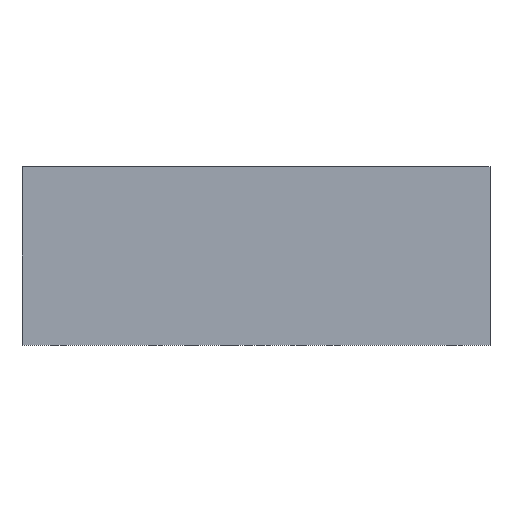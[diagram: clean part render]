
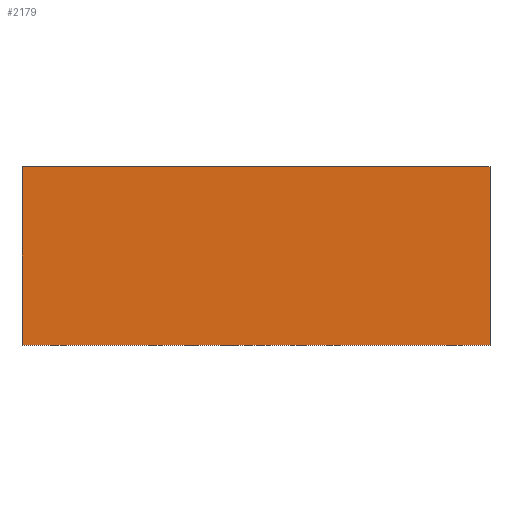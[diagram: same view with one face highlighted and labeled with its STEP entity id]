
A CAD part, front view. The second image highlights one B-rep face of the part: STEP entity #2179.
In plain terms, the highlighted planar face has unit normal (0, -1, 0).
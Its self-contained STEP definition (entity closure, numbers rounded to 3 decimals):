
#22 = VERTEX_POINT('',#23);
#23 = CARTESIAN_POINT('',(0.,0.,40.));
#32 = PLANE('',#33);
#33 = AXIS2_PLACEMENT_3D('',#34,#35,#36);
#34 = CARTESIAN_POINT('',(0.,0.,0.));
#35 = DIRECTION('',(1.,0.,0.));
#36 = DIRECTION('',(0.,0.,1.));
#44 = PLANE('',#45);
#45 = AXIS2_PLACEMENT_3D('',#46,#47,#48);
#46 = CARTESIAN_POINT('',(0.,0.,40.));
#47 = DIRECTION('',(0.,0.,1.));
#48 = DIRECTION('',(1.,0.,0.));
#56 = EDGE_CURVE('',#57,#22,#59,.T.);
#57 = VERTEX_POINT('',#58);
#58 = CARTESIAN_POINT('',(0.,0.,0.));
#59 = SURFACE_CURVE('',#60,(#64,#71),.PCURVE_S1.);
#60 = LINE('',#61,#62);
#61 = CARTESIAN_POINT('',(0.,0.,0.));
#62 = VECTOR('',#63,1.);
#63 = DIRECTION('',(0.,0.,1.));
#64 = PCURVE('',#32,#65);
#65 = DEFINITIONAL_REPRESENTATION('',(#66),#70);
#66 = LINE('',#67,#68);
#67 = CARTESIAN_POINT('',(0.,0.));
#68 = VECTOR('',#69,1.);
#69 = DIRECTION('',(1.,0.));
#70 = ( GEOMETRIC_REPRESENTATION_CONTEXT(2) 
PARAMETRIC_REPRESENTATION_CONTEXT() REPRESENTATION_CONTEXT('2D SPACE',''
  ) );
#71 = PCURVE('',#72,#77);
#72 = PLANE('',#73);
#73 = AXIS2_PLACEMENT_3D('',#74,#75,#76);
#74 = CARTESIAN_POINT('',(0.,0.,0.));
#75 = DIRECTION('',(0.,1.,0.));
#76 = DIRECTION('',(0.,0.,1.));
#77 = DEFINITIONAL_REPRESENTATION('',(#78),#82);
#78 = LINE('',#79,#80);
#79 = CARTESIAN_POINT('',(0.,0.));
#80 = VECTOR('',#81,1.);
#81 = DIRECTION('',(1.,0.));
#82 = ( GEOMETRIC_REPRESENTATION_CONTEXT(2) 
PARAMETRIC_REPRESENTATION_CONTEXT() REPRESENTATION_CONTEXT('2D SPACE',''
  ) );
#100 = PLANE('',#101);
#101 = AXIS2_PLACEMENT_3D('',#102,#103,#104);
#102 = CARTESIAN_POINT('',(0.,0.,0.));
#103 = DIRECTION('',(0.,0.,1.));
#104 = DIRECTION('',(1.,0.,0.));
#248 = EDGE_CURVE('',#22,#249,#251,.T.);
#249 = VERTEX_POINT('',#250);
#250 = CARTESIAN_POINT('',(105.,0.,40.));
#251 = SURFACE_CURVE('',#252,(#256,#263),.PCURVE_S1.);
#252 = LINE('',#253,#254);
#253 = CARTESIAN_POINT('',(0.,0.,40.));
#254 = VECTOR('',#255,1.);
#255 = DIRECTION('',(1.,0.,0.));
#256 = PCURVE('',#44,#257);
#257 = DEFINITIONAL_REPRESENTATION('',(#258),#262);
#258 = LINE('',#259,#260);
#259 = CARTESIAN_POINT('',(0.,0.));
#260 = VECTOR('',#261,1.);
#261 = DIRECTION('',(1.,0.));
#262 = ( GEOMETRIC_REPRESENTATION_CONTEXT(2) 
PARAMETRIC_REPRESENTATION_CONTEXT() REPRESENTATION_CONTEXT('2D SPACE',''
  ) );
#263 = PCURVE('',#72,#264);
#264 = DEFINITIONAL_REPRESENTATION('',(#265),#269);
#265 = LINE('',#266,#267);
#266 = CARTESIAN_POINT('',(40.,0.));
#267 = VECTOR('',#268,1.);
#268 = DIRECTION('',(0.,1.));
#269 = ( GEOMETRIC_REPRESENTATION_CONTEXT(2) 
PARAMETRIC_REPRESENTATION_CONTEXT() REPRESENTATION_CONTEXT('2D SPACE',''
  ) );
#287 = PLANE('',#288);
#288 = AXIS2_PLACEMENT_3D('',#289,#290,#291);
#289 = CARTESIAN_POINT('',(105.,0.,0.));
#290 = DIRECTION('',(1.,0.,0.));
#291 = DIRECTION('',(0.,0.,1.));
#1275 = EDGE_CURVE('',#57,#1276,#1278,.T.);
#1276 = VERTEX_POINT('',#1277);
#1277 = CARTESIAN_POINT('',(105.,0.,0.));
#1278 = SURFACE_CURVE('',#1279,(#1283,#1290),.PCURVE_S1.);
#1279 = LINE('',#1280,#1281);
#1280 = CARTESIAN_POINT('',(0.,0.,0.));
#1281 = VECTOR('',#1282,1.);
#1282 = DIRECTION('',(1.,0.,0.));
#1283 = PCURVE('',#100,#1284);
#1284 = DEFINITIONAL_REPRESENTATION('',(#1285),#1289);
#1285 = LINE('',#1286,#1287);
#1286 = CARTESIAN_POINT('',(0.,0.));
#1287 = VECTOR('',#1288,1.);
#1288 = DIRECTION('',(1.,0.));
#1289 = ( GEOMETRIC_REPRESENTATION_CONTEXT(2) 
PARAMETRIC_REPRESENTATION_CONTEXT() REPRESENTATION_CONTEXT('2D SPACE',''
  ) );
#1290 = PCURVE('',#72,#1291);
#1291 = DEFINITIONAL_REPRESENTATION('',(#1292),#1296);
#1292 = LINE('',#1293,#1294);
#1293 = CARTESIAN_POINT('',(0.,0.));
#1294 = VECTOR('',#1295,1.);
#1295 = DIRECTION('',(0.,1.));
#1296 = ( GEOMETRIC_REPRESENTATION_CONTEXT(2) 
PARAMETRIC_REPRESENTATION_CONTEXT() REPRESENTATION_CONTEXT('2D SPACE',''
  ) );
#2179 = ADVANCED_FACE('',(#2180),#72,.F.);
#2180 = FACE_BOUND('',#2181,.F.);
#2181 = EDGE_LOOP('',(#2182,#2183,#2184,#2185));
#2182 = ORIENTED_EDGE('',*,*,#1275,.F.);
#2183 = ORIENTED_EDGE('',*,*,#56,.T.);
#2184 = ORIENTED_EDGE('',*,*,#248,.T.);
#2185 = ORIENTED_EDGE('',*,*,#2186,.F.);
#2186 = EDGE_CURVE('',#1276,#249,#2187,.T.);
#2187 = SURFACE_CURVE('',#2188,(#2192,#2199),.PCURVE_S1.);
#2188 = LINE('',#2189,#2190);
#2189 = CARTESIAN_POINT('',(105.,0.,0.));
#2190 = VECTOR('',#2191,1.);
#2191 = DIRECTION('',(0.,0.,1.));
#2192 = PCURVE('',#72,#2193);
#2193 = DEFINITIONAL_REPRESENTATION('',(#2194),#2198);
#2194 = LINE('',#2195,#2196);
#2195 = CARTESIAN_POINT('',(0.,105.));
#2196 = VECTOR('',#2197,1.);
#2197 = DIRECTION('',(1.,0.));
#2198 = ( GEOMETRIC_REPRESENTATION_CONTEXT(2) 
PARAMETRIC_REPRESENTATION_CONTEXT() REPRESENTATION_CONTEXT('2D SPACE',''
  ) );
#2199 = PCURVE('',#287,#2200);
#2200 = DEFINITIONAL_REPRESENTATION('',(#2201),#2205);
#2201 = LINE('',#2202,#2203);
#2202 = CARTESIAN_POINT('',(0.,0.));
#2203 = VECTOR('',#2204,1.);
#2204 = DIRECTION('',(1.,0.));
#2205 = ( GEOMETRIC_REPRESENTATION_CONTEXT(2) 
PARAMETRIC_REPRESENTATION_CONTEXT() REPRESENTATION_CONTEXT('2D SPACE',''
  ) );
